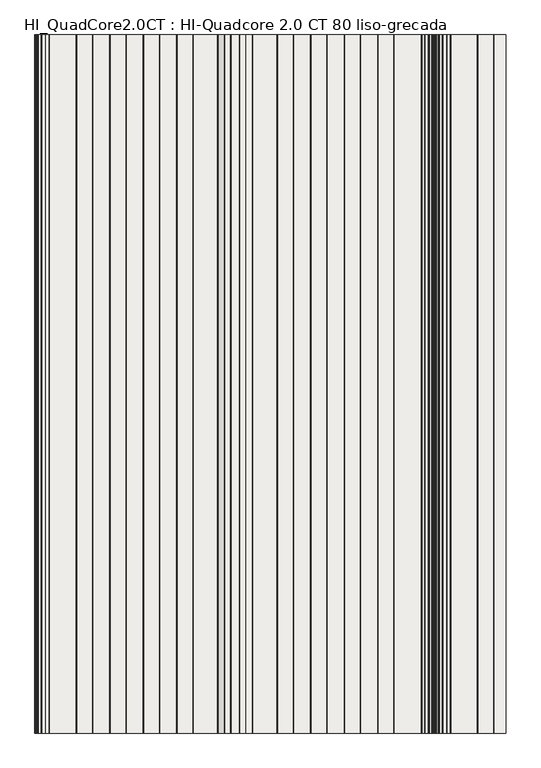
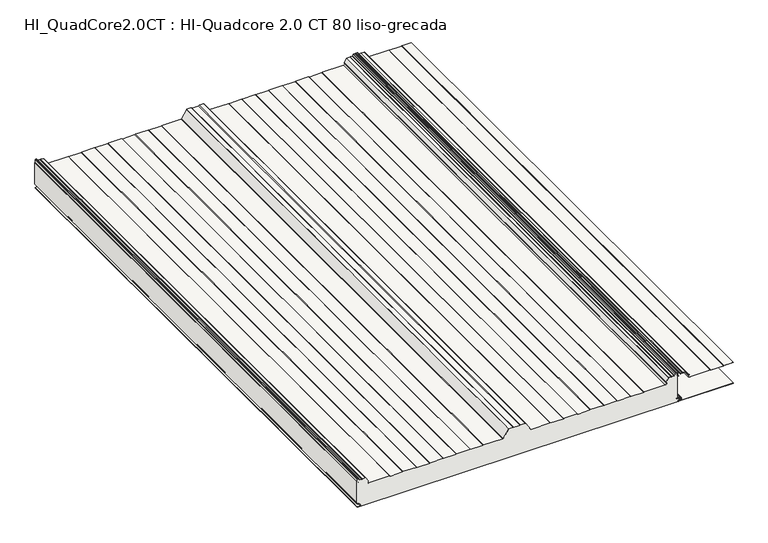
"""IFC4 building model written with IfcOpenShell, lengths in millimetres: slab geometry, HI_QuadCore2.0CT : HI-Quadcore 2.0 CT 80 liso-grecada."""

from ifc_helpers import new_model, si_unit, point, frame, frame_2d, origin, place, context, project, spatial, polyline, circle_curve, trimmed, segment, composite_curve, outline, extrude, source, transform, mapped, element, save
from ifc_brep_helpers import plane_surface, cylinder_surface, revolved_surface, advanced_brep


def hi_quadcore2_0ct_hi_quadcore_2_0_ct_80_liso_grecada_12a7aa08(model_context):
    return source(origin(), model_context, "Body", "SolidModel", [
        advanced_brep(
        [(1155.1475465, 0.0, 95.7425833), (1151.3824194, 0.0, 97.9163804), (1150.0, 0.0, 97.9163804), (1150.0, 0.0, 16.239302), (1157.510215, 0.0, 16.239302), (1157.510215, 0.0, 15.4391074), (1153.6125693, 0.0, 15.4391074), (1152.4319301, 0.0, 14.2584682), (1153.4276302, 0.0, 13.0866965), (1161.8278581, 0.0, 11.7547343), (1161.7995989, 0.0, 4.4809044), (1151.8467032, 0.0, 2.9844289), (1152.0100062, 0.0, 0.8), (2297.9590685, 0.0, 0.8), (2299.3391392, 0.0, 2.1800708), (2302.5664905, 0.0, 5.8294074), (2310.7843221, 0.0, 6.8264698), (2310.7843299, 0.0, 9.4135286), (2300.8450446, 0.0, 10.6192254), (2297.8324398, 0.0, 14.0237344), (2297.2282701, 0.0, 15.44), (2292.7624398, 0.0, 15.44), (2292.7624398, 0.0, 16.239302), (2300.0, 0.0, 16.239302), (2300.0, 0.0, 97.9163804), (2298.8824194, 0.0, 97.9163804), (2295.1172924, 0.0, 95.7425833), (2294.7172924, 0.0, 96.4354036), (2298.5824194, 0.0, 98.6669358), (2298.5824194, 0.0, 108.1), (2297.4824194, 0.0, 109.2), (2293.8888221, 0.0, 109.2), (2292.8725546, 0.0, 108.5209518), (2291.0157992, 0.0, 104.0383476), (2288.8631598, 0.0, 102.6), (2282.1371875, 0.0, 102.6), (2280.4324194, 0.0, 101.8110374), (2278.7276514, 0.0, 102.6), (2269.4004541, 0.0, 102.6), (2268.4939153, 0.0, 102.1230469), (2259.1558806, 0.0, 88.5361221), (2259.356723, 0.0, 87.0692788), (2260.3070878, 0.0, 86.2744554), (2257.4852773, 0.0, 79.2), (2181.3816122, 0.0, 79.2), (2179.6495614, 0.0, 78.2), (2134.6152775, 0.0, 78.2), (2132.8832267, 0.0, 79.2), (2085.3816122, 0.0, 79.2), (2083.6495614, 0.0, 78.2), (2038.6152775, 0.0, 78.2), (2036.8832267, 0.0, 79.2), (1989.3816122, 0.0, 79.2), (1987.6495614, 0.0, 78.2), (1942.6152775, 0.0, 78.2), (1940.8832267, 0.0, 79.2), (1893.3816122, 0.0, 79.2), (1891.6495614, 0.0, 78.2), (1846.6152775, 0.0, 78.2), (1844.8832267, 0.0, 79.2), (1775.9029123, 0.0, 79.2), (1773.9344839, 0.0, 80.2833287), (1755.9445057, 0.0, 108.6885573), (1755.0152048, 0.0, 109.2), (1738.8816122, 0.0, 109.2), (1736.283536, 0.0, 107.7), (1713.9813029, 0.0, 107.7), (1711.3832267, 0.0, 109.2), (1695.2496341, 0.0, 109.2), (1694.3203331, 0.0, 108.6885573), (1676.330355, 0.0, 80.2833287), (1674.3619266, 0.0, 79.2), (1605.3816122, 0.0, 79.2), (1603.6495614, 0.0, 78.2), (1558.6152775, 0.0, 78.2), (1556.8832267, 0.0, 79.2), (1509.3816122, 0.0, 79.2), (1507.6495614, 0.0, 78.2), (1462.6152775, 0.0, 78.2), (1460.8832267, 0.0, 79.2), (1413.3816122, 0.0, 79.2), (1411.6495614, 0.0, 78.2), (1366.6152775, 0.0, 78.2), (1364.8832267, 0.0, 79.2), (1317.3816122, 0.0, 79.2), (1315.6495614, 0.0, 78.2), (1270.6152775, 0.0, 78.2), (1268.8832267, 0.0, 79.2), (1192.7795617, 0.0, 79.2), (1189.9577511, 0.0, 86.2744555), (1190.9081159, 0.0, 87.0692788), (1191.1089583, 0.0, 88.5361221), (1181.7709236, 0.0, 102.1230469), (1180.8643848, 0.0, 102.6), (1171.5371875, 0.0, 102.6), (1169.8324194, 0.0, 101.8110374), (1168.1276514, 0.0, 102.6), (1161.4016791, 0.0, 102.6), (1159.2490397, 0.0, 104.0383476), (1157.3922843, 0.0, 108.5209518), (1156.3760168, 0.0, 109.2), (1152.7824194, 0.0, 109.2), (1151.6824194, 0.0, 108.1), (1151.6824194, 0.0, 98.6669358), (1155.5475465, 0.0, 96.4354036), (1155.1475465, 2000.0, 95.7425833), (1155.5475465, 2000.0, 96.4354036), (1151.6824194, 2000.0, 98.6669358), (1151.6824194, 2000.0, 108.1), (1152.7824194, 2000.0, 109.2), (1156.3760168, 2000.0, 109.2), (1157.3922843, 2000.0, 108.5209518), (1159.2490397, 2000.0, 104.0383476), (1161.4016791, 2000.0, 102.6), (1168.1276514, 2000.0, 102.6), (1169.8324194, 2000.0, 101.8110374), (1171.5371875, 2000.0, 102.6), (1180.8643848, 2000.0, 102.6), (1181.7709236, 2000.0, 102.1230469), (1191.1089583, 2000.0, 88.5361221), (1190.9081159, 2000.0, 87.0692788), (1189.9577511, 2000.0, 86.2744555), (1192.7795617, 2000.0, 79.2), (1268.8832267, 2000.0, 79.2), (1270.6152775, 2000.0, 78.2), (1315.6495614, 2000.0, 78.2), (1317.3816122, 2000.0, 79.2), (1364.8832267, 2000.0, 79.2), (1366.6152775, 2000.0, 78.2), (1411.6495614, 2000.0, 78.2), (1413.3816122, 2000.0, 79.2), (1460.8832267, 2000.0, 79.2), (1462.6152775, 2000.0, 78.2), (1507.6495614, 2000.0, 78.2), (1509.3816122, 2000.0, 79.2), (1556.8832267, 2000.0, 79.2), (1558.6152775, 2000.0, 78.2), (1603.6495614, 2000.0, 78.2), (1605.3816122, 2000.0, 79.2), (1674.3619266, 2000.0, 79.2), (1676.330355, 2000.0, 80.2833287), (1694.3203331, 2000.0, 108.6885573), (1695.2496341, 2000.0, 109.2), (1711.3832267, 2000.0, 109.2), (1713.9813029, 2000.0, 107.7), (1736.283536, 2000.0, 107.7), (1738.8816122, 2000.0, 109.2), (1755.0152048, 2000.0, 109.2), (1755.9445057, 2000.0, 108.6885573), (1773.9344839, 2000.0, 80.2833287), (1775.9029123, 2000.0, 79.2), (1844.8832267, 2000.0, 79.2), (1846.6152775, 2000.0, 78.2), (1891.6495614, 2000.0, 78.2), (1893.3816122, 2000.0, 79.2), (1940.8832267, 2000.0, 79.2), (1942.6152775, 2000.0, 78.2), (1987.6495614, 2000.0, 78.2), (1989.3816122, 2000.0, 79.2), (2036.8832267, 2000.0, 79.2), (2038.6152775, 2000.0, 78.2), (2083.6495614, 2000.0, 78.2), (2085.3816122, 2000.0, 79.2), (2132.8832267, 2000.0, 79.2), (2134.6152775, 2000.0, 78.2), (2179.6495614, 2000.0, 78.2), (2181.3816122, 2000.0, 79.2), (2257.4852773, 2000.0, 79.2), (2260.3070878, 2000.0, 86.2744554), (2259.356723, 2000.0, 87.0692788), (2259.1558806, 2000.0, 88.5361221), (2268.4939153, 2000.0, 102.1230469), (2269.4004541, 2000.0, 102.6), (2278.7276514, 2000.0, 102.6), (2280.4324194, 2000.0, 101.8110374), (2282.1371875, 2000.0, 102.6), (2288.8631598, 2000.0, 102.6), (2291.0157992, 2000.0, 104.0383476), (2292.8725546, 2000.0, 108.5209518), (2293.8888221, 2000.0, 109.2), (2297.4824194, 2000.0, 109.2), (2298.5824194, 2000.0, 108.1), (2298.5824194, 2000.0, 98.6669358), (2294.7172924, 2000.0, 96.4354036), (2295.1172924, 2000.0, 95.7425833), (2298.8824194, 2000.0, 97.9163804), (2300.0, 2000.0, 97.9163804), (2300.0, 2000.0, 16.239302), (2292.7624398, 2000.0, 16.239302), (2292.7624398, 2000.0, 15.44), (2297.2282701, 2000.0, 15.44), (2297.8324398, 2000.0, 14.0237344), (2300.8450446, 2000.0, 10.6192254), (2310.7843299, 2000.0, 9.4135286), (2310.7843221, 2000.0, 6.8264698), (2302.5664905, 2000.0, 5.8294074), (2299.3391392, 2000.0, 2.1800708), (2297.9590685, 2000.0, 0.8), (1152.0100062, 2000.0, 0.8), (1151.8467032, 2000.0, 2.9844289), (1161.7995989, 2000.0, 4.4809044), (1161.8278581, 2000.0, 11.7547343), (1153.4273037, 2000.0, 13.0846342), (1152.4319301, 2000.0, 14.2584682), (1153.6125693, 2000.0, 15.4391074), (1157.510215, 2000.0, 15.4391074), (1157.510215, 2000.0, 16.239302), (1150.0, 2000.0, 16.239302), (1150.0, 2000.0, 97.9163804), (1151.3824194, 2000.0, 97.9163804)],
        [
            (0, 1),
            (1, 2),
            (2, 3),
            (3, 4),
            (4, 5),
            (5, 6),
            (6, 7, circle_curve(frame((1153.6125693, 0.0, 14.2584682), z_axis=(0.0, -1.0, 0.0), x_axis=(1.0, 0.0, 0.0)), 1.1806391)),
            (7, 8, circle_curve(frame((1153.6121809, 0.0, 14.2524448), z_axis=(0.0, -1.0, 0.0), x_axis=(1.0, 0.0, 0.0)), 1.1802661)),
            (8, 9),
            (9, 10, circle_curve(frame((1161.2524398, 0.0, 8.12), z_axis=(0.0, 1.0, 0.0), x_axis=(1.0, 0.0, 0.0)), 3.68)),
            (10, 11),
            (11, 12, circle_curve(frame((1152.0100062, 0.0, 1.8983185), z_axis=(0.0, -1.0, 0.0), x_axis=(1.0, 0.0, 0.0)), 1.0983185)),
            (12, 13),
            (13, 14, circle_curve(frame((2297.9590685, 0.0, 2.1800708), z_axis=(0.0, -1.0, 0.0), x_axis=(1.0, 0.0, 0.0)), 1.3800708)),
            (14, 15, circle_curve(frame((2303.0160638, 0.0, 2.1800708), z_axis=(0.0, 1.0, 0.0), x_axis=(1.0, 0.0, 0.0)), 3.6769246)),
            (15, 16),
            (16, 17, circle_curve(frame((2310.5224398, 0.0, 8.12), z_axis=(0.0, -1.0, 0.0), x_axis=(1.0, 0.0, 0.0)), 1.3197737)),
            (17, 18),
            (18, 19, circle_curve(frame((2301.2624398, 0.0, 14.0237344), z_axis=(0.0, 1.0, 0.0), x_axis=(1.0, 0.0, 0.0)), 3.43)),
            (19, 20, circle_curve(frame((2295.8703839, 0.0, 14.0237344), z_axis=(0.0, -1.0, 0.0), x_axis=(1.0, 0.0, 0.0)), 1.9620559)),
            (20, 21),
            (21, 22),
            (22, 23),
            (23, 24),
            (24, 25),
            (25, 26),
            (26, 27),
            (27, 28),
            (28, 29),
            (29, 30, circle_curve(frame((2297.4824194, 0.0, 108.1), z_axis=(0.0, -1.0, 0.0), x_axis=(1.0, 0.0, 0.0)), 1.1)),
            (30, 31),
            (31, 32, circle_curve(frame((2293.8888221, 0.0, 108.1), z_axis=(0.0, -1.0, 0.0), x_axis=(1.0, 0.0, 0.0)), 1.1)),
            (32, 33),
            (33, 34, circle_curve(frame((2288.8631598, 0.0, 104.93), z_axis=(0.0, 1.0, 0.0), x_axis=(1.0, 0.0, 0.0)), 2.33)),
            (34, 35),
            (35, 36),
            (36, 37),
            (37, 38),
            (38, 39, circle_curve(frame((2269.4004541, 0.0, 101.5), z_axis=(0.0, -1.0, 0.0), x_axis=(1.0, 0.0, 0.0)), 1.1)),
            (39, 40),
            (40, 41, circle_curve(frame((2260.0624194, 0.0, 87.9130753), z_axis=(0.0, -1.0, 0.0), x_axis=(1.0, 0.0, 0.0)), 1.1)),
            (41, 42),
            (42, 43, circle_curve(frame((2257.4852773, 0.0, 83.3), z_axis=(0.0, 1.0, 0.0), x_axis=(1.0, 0.0, 0.0)), 4.1)),
            (43, 44),
            (44, 45),
            (45, 46),
            (46, 47),
            (47, 48),
            (48, 49),
            (49, 50),
            (50, 51),
            (51, 52),
            (52, 53),
            (53, 54),
            (54, 55),
            (55, 56),
            (56, 57),
            (57, 58),
            (58, 59),
            (59, 60),
            (60, 61, circle_curve(frame((1775.9029123, 0.0, 81.53), z_axis=(0.0, 1.0, 0.0), x_axis=(1.0, 0.0, 0.0)), 2.33)),
            (61, 62),
            (62, 63, circle_curve(frame((1755.0152048, 0.0, 108.1), z_axis=(0.0, -1.0, 0.0), x_axis=(1.0, 0.0, 0.0)), 1.1)),
            (63, 64),
            (64, 65),
            (65, 66),
            (66, 67),
            (67, 68),
            (68, 69, circle_curve(frame((1695.2496341, 0.0, 108.1), z_axis=(0.0, -1.0, 0.0), x_axis=(1.0, 0.0, 0.0)), 1.1)),
            (69, 70),
            (70, 71, circle_curve(frame((1674.3619266, 0.0, 81.53), z_axis=(0.0, 1.0, 0.0), x_axis=(1.0, 0.0, 0.0)), 2.33)),
            (71, 72),
            (72, 73),
            (73, 74),
            (74, 75),
            (75, 76),
            (76, 77),
            (77, 78),
            (78, 79),
            (79, 80),
            (80, 81),
            (81, 82),
            (82, 83),
            (83, 84),
            (84, 85),
            (85, 86),
            (86, 87),
            (87, 88),
            (88, 89, circle_curve(frame((1192.7795617, 0.0, 83.3), z_axis=(0.0, 1.0, 0.0), x_axis=(1.0, 0.0, 0.0)), 4.1)),
            (89, 90),
            (90, 91, circle_curve(frame((1190.2024195, 0.0, 87.9130752), z_axis=(0.0, -1.0, 0.0), x_axis=(1.0, 0.0, 0.0)), 1.1)),
            (91, 92),
            (92, 93, circle_curve(frame((1180.8643848, 0.0, 101.5), z_axis=(0.0, -1.0, 0.0), x_axis=(1.0, 0.0, 0.0)), 1.1)),
            (93, 94),
            (94, 95),
            (95, 96),
            (96, 97),
            (97, 98, circle_curve(frame((1161.4016791, 0.0, 104.93), z_axis=(0.0, 1.0, 0.0), x_axis=(1.0, 0.0, 0.0)), 2.33)),
            (98, 99),
            (99, 100, circle_curve(frame((1156.3760168, 0.0, 108.1), z_axis=(0.0, -1.0, 0.0), x_axis=(1.0, 0.0, 0.0)), 1.1)),
            (100, 101),
            (101, 102, circle_curve(frame((1152.7824194, 0.0, 108.1), z_axis=(0.0, -1.0, 0.0), x_axis=(1.0, 0.0, 0.0)), 1.1)),
            (102, 103),
            (103, 104),
            (104, 0),
            (105, 106),
            (106, 107),
            (107, 108),
            (108, 109, circle_curve(frame((1152.7824194, 2000.0, 108.1), z_axis=(0.0, 1.0, 0.0), x_axis=(1.0, 0.0, 0.0)), 1.1)),
            (109, 110),
            (110, 111, circle_curve(frame((1156.3760168, 2000.0, 108.1), z_axis=(0.0, 1.0, 0.0), x_axis=(1.0, 0.0, 0.0)), 1.1)),
            (111, 112),
            (112, 113, circle_curve(frame((1161.4016791, 2000.0, 104.93), z_axis=(0.0, -1.0, 0.0), x_axis=(1.0, 0.0, 0.0)), 2.33)),
            (113, 114),
            (114, 115),
            (115, 116),
            (116, 117),
            (117, 118, circle_curve(frame((1180.8643848, 2000.0, 101.5), z_axis=(0.0, 1.0, 0.0), x_axis=(1.0, 0.0, 0.0)), 1.1)),
            (118, 119),
            (119, 120, circle_curve(frame((1190.2024195, 2000.0, 87.9130752), z_axis=(0.0, 1.0, 0.0), x_axis=(1.0, 0.0, 0.0)), 1.1)),
            (120, 121),
            (121, 122, circle_curve(frame((1192.7795617, 2000.0, 83.3), z_axis=(0.0, -1.0, 0.0), x_axis=(1.0, 0.0, 0.0)), 4.1)),
            (122, 123),
            (123, 124),
            (124, 125),
            (125, 126),
            (126, 127),
            (127, 128),
            (128, 129),
            (129, 130),
            (130, 131),
            (131, 132),
            (132, 133),
            (133, 134),
            (134, 135),
            (135, 136),
            (136, 137),
            (137, 138),
            (138, 139),
            (139, 140, circle_curve(frame((1674.3619266, 2000.0, 81.53), z_axis=(0.0, -1.0, 0.0), x_axis=(1.0, 0.0, 0.0)), 2.33)),
            (140, 141),
            (141, 142, circle_curve(frame((1695.2496341, 2000.0, 108.1), z_axis=(0.0, 1.0, 0.0), x_axis=(1.0, 0.0, 0.0)), 1.1)),
            (142, 143),
            (143, 144),
            (144, 145),
            (145, 146),
            (146, 147),
            (147, 148, circle_curve(frame((1755.0152048, 2000.0, 108.1), z_axis=(0.0, 1.0, 0.0), x_axis=(1.0, 0.0, 0.0)), 1.1)),
            (148, 149),
            (149, 150, circle_curve(frame((1775.9029123, 2000.0, 81.53), z_axis=(0.0, -1.0, 0.0), x_axis=(1.0, 0.0, 0.0)), 2.33)),
            (150, 151),
            (151, 152),
            (152, 153),
            (153, 154),
            (154, 155),
            (155, 156),
            (156, 157),
            (157, 158),
            (158, 159),
            (159, 160),
            (160, 161),
            (161, 162),
            (162, 163),
            (163, 164),
            (164, 165),
            (165, 166),
            (166, 167),
            (167, 168, circle_curve(frame((2257.4852773, 2000.0, 83.3), z_axis=(0.0, -1.0, 0.0), x_axis=(1.0, 0.0, 0.0)), 4.1)),
            (168, 169),
            (169, 170, circle_curve(frame((2260.0624194, 2000.0, 87.9130753), z_axis=(0.0, 1.0, 0.0), x_axis=(1.0, 0.0, 0.0)), 1.1)),
            (170, 171),
            (171, 172, circle_curve(frame((2269.4004541, 2000.0, 101.5), z_axis=(0.0, 1.0, 0.0), x_axis=(1.0, 0.0, 0.0)), 1.1)),
            (172, 173),
            (173, 174),
            (174, 175),
            (175, 176),
            (176, 177, circle_curve(frame((2288.8631598, 2000.0, 104.93), z_axis=(0.0, -1.0, 0.0), x_axis=(1.0, 0.0, 0.0)), 2.33)),
            (177, 178),
            (178, 179, circle_curve(frame((2293.8888221, 2000.0, 108.1), z_axis=(0.0, 1.0, 0.0), x_axis=(1.0, 0.0, 0.0)), 1.1)),
            (179, 180),
            (180, 181, circle_curve(frame((2297.4824194, 2000.0, 108.1), z_axis=(0.0, 1.0, 0.0), x_axis=(1.0, 0.0, 0.0)), 1.1)),
            (181, 182),
            (182, 183),
            (183, 184),
            (184, 185),
            (185, 186),
            (186, 187),
            (187, 188),
            (188, 189),
            (189, 190),
            (190, 191, circle_curve(frame((2295.8703839, 2000.0, 14.0237344), z_axis=(0.0, 1.0, 0.0), x_axis=(1.0, 0.0, 0.0)), 1.9620559)),
            (191, 192, circle_curve(frame((2301.2624398, 2000.0, 14.0237344), z_axis=(0.0, -1.0, 0.0), x_axis=(1.0, 0.0, 0.0)), 3.43)),
            (192, 193),
            (193, 194, circle_curve(frame((2310.5224398, 2000.0, 8.12), z_axis=(0.0, 1.0, 0.0), x_axis=(1.0, 0.0, 0.0)), 1.3197737)),
            (194, 195),
            (195, 196, circle_curve(frame((2303.0160638, 2000.0, 2.1800708), z_axis=(0.0, -1.0, 0.0), x_axis=(1.0, 0.0, 0.0)), 3.6769246)),
            (196, 197, circle_curve(frame((2297.9590685, 2000.0, 2.1800708), z_axis=(0.0, 1.0, 0.0), x_axis=(1.0, 0.0, 0.0)), 1.3800708)),
            (197, 198),
            (198, 199, circle_curve(frame((1152.0100062, 2000.0, 1.8983185), z_axis=(0.0, 1.0, 0.0), x_axis=(1.0, 0.0, 0.0)), 1.0983185)),
            (199, 200),
            (200, 201, circle_curve(frame((1161.2524398, 2000.0, 8.12), z_axis=(0.0, -1.0, 0.0), x_axis=(1.0, 0.0, 0.0)), 3.68)),
            (201, 202),
            (202, 203, circle_curve(frame((1153.6121809, 2000.0, 14.2524448), z_axis=(0.0, 1.0, 0.0), x_axis=(1.0, 0.0, 0.0)), 1.1802661)),
            (203, 204, circle_curve(frame((1153.6125693, 2000.0, 14.2584682), z_axis=(0.0, 1.0, 0.0), x_axis=(1.0, 0.0, 0.0)), 1.1806391)),
            (204, 205),
            (205, 206),
            (206, 207),
            (207, 208),
            (208, 209),
            (209, 105),
            (0, 105),
            (209, 1),
            (208, 2),
            (207, 3),
            (186, 24),
            (23, 187),
            (185, 25),
            (184, 26),
            (183, 27),
            (182, 28),
            (181, 29),
            (180, 30),
            (179, 31),
            (178, 32),
            (177, 33),
            (176, 34),
            (175, 35),
            (174, 36),
            (173, 37),
            (172, 38),
            (171, 39),
            (170, 40),
            (169, 41),
            (168, 42),
            (167, 43),
            (166, 44),
            (165, 45),
            (164, 46),
            (163, 47),
            (162, 48),
            (161, 49),
            (160, 50),
            (159, 51),
            (158, 52),
            (157, 53),
            (156, 54),
            (155, 55),
            (154, 56),
            (153, 57),
            (152, 58),
            (151, 59),
            (150, 60),
            (149, 61),
            (148, 62),
            (147, 63),
            (146, 64),
            (145, 65),
            (144, 66),
            (143, 67),
            (142, 68),
            (141, 69),
            (140, 70),
            (139, 71),
            (138, 72),
            (137, 73),
            (136, 74),
            (135, 75),
            (134, 76),
            (133, 77),
            (132, 78),
            (131, 79),
            (130, 80),
            (129, 81),
            (128, 82),
            (127, 83),
            (126, 84),
            (125, 85),
            (124, 86),
            (123, 87),
            (122, 88),
            (121, 89),
            (120, 90),
            (119, 91),
            (118, 92),
            (117, 93),
            (116, 94),
            (115, 95),
            (114, 96),
            (113, 97),
            (112, 98),
            (111, 99),
            (110, 100),
            (109, 101),
            (108, 102),
            (107, 103),
            (106, 104),
            (22, 188),
            (206, 4),
            (205, 5),
            (204, 6),
            (203, 7),
            (202, 8),
            (201, 9),
            (200, 10),
            (199, 11),
            (198, 12),
            (197, 13),
            (196, 14),
            (195, 15),
            (194, 16),
            (193, 17),
            (192, 18),
            (191, 19),
            (190, 20),
            (189, 21),
        ],
        [
            plane_surface(frame((1151.3824194, 0.0, 97.9163804), z_axis=(0.0, -1.0, 0.0), x_axis=(-0.866025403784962, 0.0, 0.4999999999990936))),
            plane_surface(frame((1151.3824194, 2000.0, 97.9163804), z_axis=(0.0, 1.0, 0.0), x_axis=(0.866025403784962, 0.0, -0.4999999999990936))),
            plane_surface(frame((1155.1475465, 0.0, 95.7425833), z_axis=(0.4999999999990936, 0.0, 0.866025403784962), x_axis=(0.0, 1.0, 0.0))),
            plane_surface(frame((1151.3824194, 0.0, 97.9163804), z_axis=(0.0, 0.0, 1.0), x_axis=(0.0, 1.0, 0.0))),
            plane_surface(frame((1150.0, 0.0, 97.9163804), z_axis=(-1.0, 0.0, 0.0), x_axis=(0.0, 1.0, 0.0))),
            plane_surface(frame((2300.0, 0.0, 70.0), z_axis=(1.0, 0.0, 0.0), x_axis=(0.0, 1.0, 0.0))),
            plane_surface(frame((2300.0, 0.0, 97.9163804), z_axis=(0.0, 0.0, 1.0), x_axis=(0.0, 1.0, 0.0))),
            plane_surface(frame((2298.8824194, 0.0, 97.9163804), z_axis=(-0.4999999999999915, 0.0, 0.8660254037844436), x_axis=(0.0, 1.0, 0.0))),
            plane_surface(frame((2295.1172924, 0.0, 95.7425833), z_axis=(0.8660254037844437, 0.0, 0.49999999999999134), x_axis=(0.0, 1.0, 0.0))),
            plane_surface(frame((2294.7172924, 0.0, 96.4354036), z_axis=(0.4999999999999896, 0.0, -0.8660254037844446), x_axis=(0.0, 1.0, 0.0))),
            plane_surface(frame((2298.5824194, 0.0, 98.6669358), z_axis=(1.0, 0.0, 0.0), x_axis=(0.0, 1.0, 0.0))),
            cylinder_surface(frame((2297.4824194, 2000.0, 108.1), z_axis=(0.0, -1.0, 0.0), x_axis=(1.0, 0.0, 0.0)), 1.1),
            plane_surface(frame((2297.4824194, 0.0, 109.2), z_axis=(0.0, 0.0, 1.0), x_axis=(0.0, 1.0, 0.0))),
            cylinder_surface(frame((2293.8888221, 2000.0, 108.1), z_axis=(0.0, -1.0, 0.0), x_axis=(1.0, 0.0, 0.0)), 1.1),
            plane_surface(frame((2292.8725546, 0.0, 108.5209518), z_axis=(-0.9238795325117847, 0.0, 0.38268343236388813), x_axis=(0.0, 1.0, 0.0))),
            revolved_surface(polyline([(2291.1931598, 2000.0, 104.93), (2291.1931598, 0.0, 104.93)]), (2288.8631598, 2000.0, 104.93), (0.0, 1.0, 0.0)),
            plane_surface(frame((2288.8631598, 0.0, 102.6), z_axis=(0.0, 0.0, 1.0), x_axis=(0.0, 1.0, 0.0))),
            plane_surface(frame((2282.1371875, 0.0, 102.6), z_axis=(-0.4199999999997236, 0.0, 0.9075241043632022), x_axis=(0.0, 1.0, 0.0))),
            plane_surface(frame((2280.4324194, 0.0, 101.8110374), z_axis=(0.42000000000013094, 0.0, 0.9075241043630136), x_axis=(0.0, 1.0, 0.0))),
            plane_surface(frame((2278.7276514, 0.0, 102.6), z_axis=(0.0, 0.0, 1.0), x_axis=(0.0, 1.0, 0.0))),
            cylinder_surface(frame((2269.4004541, 2000.0, 101.5), z_axis=(0.0, -1.0, 0.0), x_axis=(1.0, 0.0, 0.0)), 1.1),
            plane_surface(frame((2268.4939153, 0.0, 102.1230469), z_axis=(-0.824126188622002, 0.0, 0.5664062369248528), x_axis=(0.0, 1.0, 0.0))),
            cylinder_surface(frame((2260.0624194, 2000.0, 87.9130753), z_axis=(0.0, -1.0, 0.0), x_axis=(1.0, 0.0, 0.0)), 1.1),
            plane_surface(frame((2259.356723, 0.0, 87.0692788), z_axis=(-0.641542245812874, 0.0, -0.7670877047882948), x_axis=(0.0, 1.0, 0.0))),
            revolved_surface(polyline([(2261.5852772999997, 2000.0, 83.3), (2261.5852772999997, 0.0, 83.3)]), (2257.4852773, 2000.0, 83.3), (0.0, 1.0, 0.0)),
            plane_surface(frame((2257.4852773, 0.0, 79.2), z_axis=(0.0, 0.0, 1.0), x_axis=(0.0, 1.0, 0.0))),
            plane_surface(frame((2181.3816122, 0.0, 79.2), z_axis=(-0.4999999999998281, 0.0, 0.866025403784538), x_axis=(0.0, 1.0, 0.0))),
            plane_surface(frame((2179.6495614, 0.0, 78.2), z_axis=(0.0, 0.0, 1.0), x_axis=(0.0, 1.0, 0.0))),
            plane_surface(frame((2134.6152775, 0.0, 78.2), z_axis=(0.4999999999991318, 0.0, 0.86602540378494), x_axis=(0.0, 1.0, 0.0))),
            plane_surface(frame((2132.8832267, 0.0, 79.2), z_axis=(0.0, 0.0, 1.0), x_axis=(0.0, 1.0, 0.0))),
            plane_surface(frame((2085.3816122, 0.0, 79.2), z_axis=(-0.49999999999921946, 0.0, 0.8660254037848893), x_axis=(0.0, 1.0, 0.0))),
            plane_surface(frame((2083.6495614, 0.0, 78.2), z_axis=(0.0, 0.0, 1.0), x_axis=(0.0, 1.0, 0.0))),
            plane_surface(frame((2038.6152775, 0.0, 78.2), z_axis=(0.49999999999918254, 0.0, 0.8660254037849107), x_axis=(0.0, 1.0, 0.0))),
            plane_surface(frame((2036.8832267, 0.0, 79.2), z_axis=(0.0, 0.0, 1.0), x_axis=(0.0, 1.0, 0.0))),
            plane_surface(frame((1989.3816122, 0.0, 79.2), z_axis=(-0.4999999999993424, 0.0, 0.8660254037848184), x_axis=(0.0, 1.0, 0.0))),
            plane_surface(frame((1987.6495614, 0.0, 78.2), z_axis=(0.0, 0.0, 1.0), x_axis=(0.0, 1.0, 0.0))),
            plane_surface(frame((1942.6152775, 0.0, 78.2), z_axis=(0.4999999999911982, 0.0, 0.8660254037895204), x_axis=(0.0, 1.0, 0.0))),
            plane_surface(frame((1940.8832267, 0.0, 79.2), z_axis=(0.0, 0.0, 1.0), x_axis=(0.0, 1.0, 0.0))),
            plane_surface(frame((1893.3816122, 0.0, 79.2), z_axis=(-0.5000000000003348, 0.0, 0.8660254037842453), x_axis=(0.0, 1.0, 0.0))),
            plane_surface(frame((1891.6495614, 0.0, 78.2), z_axis=(0.0, 0.0, 1.0), x_axis=(0.0, 1.0, 0.0))),
            plane_surface(frame((1846.6152775, 0.0, 78.2), z_axis=(0.5000000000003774, 0.0, 0.8660254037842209), x_axis=(0.0, 1.0, 0.0))),
            plane_surface(frame((1844.8832267, 0.0, 79.2), z_axis=(0.0, 0.0, 1.0), x_axis=(0.0, 1.0, 0.0))),
            revolved_surface(polyline([(1778.2329123, 2000.0, 81.53), (1778.2329123, 0.0, 81.53)]), (1775.9029123, 2000.0, 81.53), (0.0, 1.0, 0.0)),
            plane_surface(frame((1773.9344839, 0.0, 80.2833287), z_axis=(0.8448190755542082, 0.0, 0.5350520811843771), x_axis=(0.0, 1.0, 0.0))),
            cylinder_surface(frame((1755.0152048, 2000.0, 108.1), z_axis=(0.0, -1.0, 0.0), x_axis=(1.0, 0.0, 0.0)), 1.1),
            plane_surface(frame((1755.0152048, 0.0, 109.2), z_axis=(0.0, 0.0, 1.0), x_axis=(0.0, 1.0, 0.0))),
            plane_surface(frame((1738.8816122, 0.0, 109.2), z_axis=(-0.4999999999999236, 0.0, 0.8660254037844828), x_axis=(0.0, 1.0, 0.0))),
            plane_surface(frame((1736.283536, 0.0, 107.7), z_axis=(0.0, 0.0, 1.0), x_axis=(0.0, 1.0, 0.0))),
            plane_surface(frame((1713.9813029, 0.0, 107.7), z_axis=(0.5000000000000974, 0.0, 0.8660254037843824), x_axis=(0.0, 1.0, 0.0))),
            plane_surface(frame((1711.3832267, 0.0, 109.2), z_axis=(0.0, 0.0, 1.0), x_axis=(0.0, 1.0, 0.0))),
            cylinder_surface(frame((1695.2496341, 2000.0, 108.1), z_axis=(0.0, -1.0, 0.0), x_axis=(1.0, 0.0, 0.0)), 1.1),
            plane_surface(frame((1694.3203331, 0.0, 108.6885573), z_axis=(-0.8448190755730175, 0.0, 0.5350520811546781), x_axis=(0.0, 1.0, 0.0))),
            revolved_surface(polyline([(1676.6919266, 2000.0, 81.53), (1676.6919266, 0.0, 81.53)]), (1674.3619266, 2000.0, 81.53), (0.0, 1.0, 0.0)),
            plane_surface(frame((1674.3619266, 0.0, 79.2), z_axis=(0.0, 0.0, 1.0), x_axis=(0.0, 1.0, 0.0))),
            plane_surface(frame((1605.3816122, 0.0, 79.2), z_axis=(-0.5000000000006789, 0.0, 0.8660254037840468), x_axis=(0.0, 1.0, 0.0))),
            plane_surface(frame((1603.6495614, 0.0, 78.2), z_axis=(0.0, 0.0, 1.0), x_axis=(0.0, 1.0, 0.0))),
            plane_surface(frame((1558.6152775, 0.0, 78.2), z_axis=(0.49999999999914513, 0.0, 0.8660254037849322), x_axis=(0.0, 1.0, 0.0))),
            plane_surface(frame((1556.8832267, 0.0, 79.2), z_axis=(0.0, 0.0, 1.0), x_axis=(0.0, 1.0, 0.0))),
            plane_surface(frame((1509.3816122, 0.0, 79.2), z_axis=(-0.500000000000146, 0.0, 0.8660254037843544), x_axis=(0.0, 1.0, 0.0))),
            plane_surface(frame((1507.6495614, 0.0, 78.2), z_axis=(0.0, 0.0, 1.0), x_axis=(0.0, 1.0, 0.0))),
            plane_surface(frame((1462.6152775, 0.0, 78.2), z_axis=(0.49999999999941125, 0.0, 0.8660254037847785), x_axis=(0.0, 1.0, 0.0))),
            plane_surface(frame((1460.8832267, 0.0, 79.2), z_axis=(0.0, 0.0, 1.0), x_axis=(0.0, 1.0, 0.0))),
            plane_surface(frame((1413.3816122, 0.0, 79.2), z_axis=(-0.4999999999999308, 0.0, 0.8660254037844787), x_axis=(0.0, 1.0, 0.0))),
            plane_surface(frame((1411.6495614, 0.0, 78.2), z_axis=(0.0, 0.0, 1.0), x_axis=(0.0, 1.0, 0.0))),
            plane_surface(frame((1366.6152775, 0.0, 78.2), z_axis=(0.49999999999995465, 0.0, 0.8660254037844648), x_axis=(0.0, 1.0, 0.0))),
            plane_surface(frame((1364.8832267, 0.0, 79.2), z_axis=(0.0, 0.0, 1.0), x_axis=(0.0, 1.0, 0.0))),
            plane_surface(frame((1317.3816122, 0.0, 79.2), z_axis=(-0.5000000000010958, 0.0, 0.866025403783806), x_axis=(0.0, 1.0, 0.0))),
            plane_surface(frame((1315.6495614, 0.0, 78.2), z_axis=(0.0, 0.0, 1.0), x_axis=(0.0, 1.0, 0.0))),
            plane_surface(frame((1270.6152775, 0.0, 78.2), z_axis=(0.4999999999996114, 0.0, 0.8660254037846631), x_axis=(0.0, 1.0, 0.0))),
            plane_surface(frame((1268.8832267, 0.0, 79.2), z_axis=(0.0, 0.0, 1.0), x_axis=(0.0, 1.0, 0.0))),
            revolved_surface(polyline([(1196.8795616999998, 2000.0, 83.3), (1196.8795616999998, 0.0, 83.3)]), (1192.7795617, 2000.0, 83.3), (0.0, 1.0, 0.0)),
            plane_surface(frame((1189.9577511, 0.0, 86.2744555), z_axis=(0.6415422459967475, 0.0, -0.7670877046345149), x_axis=(0.0, 1.0, 0.0))),
            cylinder_surface(frame((1190.2024195, 2000.0, 87.9130752), z_axis=(0.0, -1.0, 0.0), x_axis=(1.0, 0.0, 0.0)), 1.1),
            plane_surface(frame((1191.1089583, 0.0, 88.5361221), z_axis=(0.8241261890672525, 0.0, 0.5664062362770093), x_axis=(0.0, 1.0, 0.0))),
            cylinder_surface(frame((1180.8643848, 2000.0, 101.5), z_axis=(0.0, -1.0, 0.0), x_axis=(1.0, 0.0, 0.0)), 1.1),
            plane_surface(frame((1180.8643848, 0.0, 102.6), z_axis=(0.0, 0.0, 1.0), x_axis=(0.0, 1.0, 0.0))),
            plane_surface(frame((1171.5371875, 0.0, 102.6), z_axis=(-0.41999999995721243, 0.0, 0.9075241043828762), x_axis=(0.0, 1.0, 0.0))),
            plane_surface(frame((1169.8324194, 0.0, 101.8110374), z_axis=(0.4200000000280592, 0.0, 0.9075241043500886), x_axis=(0.0, 1.0, 0.0))),
            plane_surface(frame((1168.1276514, 0.0, 102.6), z_axis=(0.0, 0.0, 1.0), x_axis=(0.0, 1.0, 0.0))),
            revolved_surface(polyline([(1163.7316790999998, 2000.0, 104.93), (1163.7316790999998, 0.0, 104.93)]), (1161.4016791, 2000.0, 104.93), (0.0, 1.0, 0.0)),
            plane_surface(frame((1159.2490397, 0.0, 104.0383476), z_axis=(0.9238795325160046, 0.0, 0.3826834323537), x_axis=(0.0, 1.0, 0.0))),
            cylinder_surface(frame((1156.3760168, 2000.0, 108.1), z_axis=(0.0, -1.0, 0.0), x_axis=(1.0, 0.0, 0.0)), 1.1),
            plane_surface(frame((1156.3760168, 0.0, 109.2), z_axis=(0.0, 0.0, 1.0), x_axis=(0.0, 1.0, 0.0))),
            cylinder_surface(frame((1152.7824194, 2000.0, 108.1), z_axis=(0.0, -1.0, 0.0), x_axis=(1.0, 0.0, 0.0)), 1.1),
            plane_surface(frame((1151.6824194, 0.0, 108.1), z_axis=(-1.0, 0.0, 0.0), x_axis=(0.0, 1.0, 0.0))),
            plane_surface(frame((1151.6824194, 0.0, 98.6669358), z_axis=(-0.49999999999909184, 0.0, -0.866025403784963), x_axis=(0.0, 1.0, 0.0))),
            plane_surface(frame((1155.5475465, 0.0, 96.4354036), z_axis=(-0.866025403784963, 0.0, 0.4999999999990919), x_axis=(0.0, 1.0, 0.0))),
            plane_surface(frame((1150.0, 0.0, 16.239302), z_axis=(0.0, 0.0, -1.0), x_axis=(0.0, 1.0, 0.0))),
            plane_surface(frame((1157.510215, 0.0, 16.239302), z_axis=(-1.0, 0.0, 0.0), x_axis=(0.0, 1.0, 0.0))),
            plane_surface(frame((1157.510215, 0.0, 15.4391074), z_axis=(0.0, 0.0, 1.0), x_axis=(0.0, 1.0, 0.0))),
            cylinder_surface(frame((1153.6125693, 2000.0, 14.2584682), z_axis=(0.0, -1.0, 0.0), x_axis=(1.0, 0.0, 0.0)), 1.1806391),
            cylinder_surface(frame((1153.6121809, 2000.0, 14.2524448), z_axis=(0.0, -1.0, 0.0), x_axis=(1.0, 0.0, 0.0)), 1.1802661),
            plane_surface(frame((1153.4273037, 0.0, 13.0846342), z_axis=(-0.1563636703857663, 0.0, -0.9876995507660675), x_axis=(0.0, 1.0, 0.0))),
            revolved_surface(polyline([(1164.9324398, 2000.0, 8.12), (1164.9324398, 0.0, 8.12)]), (1161.2524398, 2000.0, 8.12), (0.0, 1.0, 0.0)),
            plane_surface(frame((1161.7995989, 0.0, 4.4809044), z_axis=(-0.14868453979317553, 0.0, 0.9888846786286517), x_axis=(0.0, 1.0, 0.0))),
            cylinder_surface(frame((1152.0100062, 2000.0, 1.8983185), z_axis=(0.0, -1.0, 0.0), x_axis=(1.0, 0.0, 0.0)), 1.0983185),
            plane_surface(frame((1152.0100062, 0.0, 0.8), z_axis=(0.0, 0.0, -1.0), x_axis=(0.0, 1.0, 0.0))),
            cylinder_surface(frame((2297.9590685, 2000.0, 2.1800708), z_axis=(0.0, -1.0, 0.0), x_axis=(1.0, 0.0, 0.0)), 1.3800708),
            revolved_surface(polyline([(2306.6929884, 2000.0, 2.1800708), (2306.6929884, 0.0, 2.1800708)]), (2303.0160638, 2000.0, 2.1800708), (0.0, 1.0, 0.0)),
            plane_surface(frame((2302.5664905, 0.0, 5.8294074), z_axis=(0.12044584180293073, 0.0, -0.9927198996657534), x_axis=(0.0, 1.0, 0.0))),
            cylinder_surface(frame((2310.5224398, 2000.0, 8.12), z_axis=(0.0, -1.0, 0.0), x_axis=(1.0, 0.0, 0.0)), 1.3197737),
            plane_surface(frame((2310.7843299, 0.0, 9.4135286), z_axis=(0.12042339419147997, 0.0, 0.9927226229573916), x_axis=(0.0, 1.0, 0.0))),
            revolved_surface(polyline([(2304.6924397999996, 2000.0, 14.0237344), (2304.6924397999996, 0.0, 14.0237344)]), (2301.2624398, 2000.0, 14.0237344), (0.0, 1.0, 0.0)),
            cylinder_surface(frame((2295.8703839, 2000.0, 14.0237344), z_axis=(0.0, -1.0, 0.0), x_axis=(1.0, 0.0, 0.0)), 1.9620559),
            plane_surface(frame((2297.2282701, 0.0, 15.44), z_axis=(0.0, 0.0, 1.0), x_axis=(0.0, 1.0, 0.0))),
            plane_surface(frame((2292.7624398, 0.0, 15.44), z_axis=(1.0, 0.0, 0.0), x_axis=(0.0, 1.0, 0.0))),
        ],
        [
            (0, [[1, 2, 3, 4, 5, 6, 7, 8, 9, 10, 11, 12, 13, 14, 15, 16, 17, 18, 19, 20, 21, 22, 23, 24, 25, 26, 27, 28, 29, 30, 31, 32, 33, 34, 35, 36, 37, 38, 39, 40, 41, 42, 43, 44, 45, 46, 47, 48, 49, 50, 51, 52, 53, 54, 55, 56, 57, 58, 59, 60, 61, 62, 63, 64, 65, 66, 67, 68, 69, 70, 71, 72, 73, 74, 75, 76, 77, 78, 79, 80, 81, 82, 83, 84, 85, 86, 87, 88, 89, 90, 91, 92, 93, 94, 95, 96, 97, 98, 99, 100, 101, 102, 103, 104, 105]]),
            (1, [[106, 107, 108, 109, 110, 111, 112, 113, 114, 115, 116, 117, 118, 119, 120, 121, 122, 123, 124, 125, 126, 127, 128, 129, 130, 131, 132, 133, 134, 135, 136, 137, 138, 139, 140, 141, 142, 143, 144, 145, 146, 147, 148, 149, 150, 151, 152, 153, 154, 155, 156, 157, 158, 159, 160, 161, 162, 163, 164, 165, 166, 167, 168, 169, 170, 171, 172, 173, 174, 175, 176, 177, 178, 179, 180, 181, 182, 183, 184, 185, 186, 187, 188, 189, 190, 191, 192, 193, 194, 195, 196, 197, 198, 199, 200, 201, 202, 203, 204, 205, 206, 207, 208, 209, 210]]),
            (2, [[-1, 211, -210, 212]]),
            (3, [[-2, -212, -209, 213]]),
            (4, [[-213, -208, 214, -3]]),
            (5, [[215, -24, 216, -187]]),
            (6, [[-25, -215, -186, 217]]),
            (7, [[-26, -217, -185, 218]]),
            (8, [[-27, -218, -184, 219]]),
            (9, [[-28, -219, -183, 220]]),
            (10, [[-29, -220, -182, 221]]),
            (11, [[-30, -221, -181, 222]]),
            (12, [[-31, -222, -180, 223]]),
            (13, [[-32, -223, -179, 224]]),
            (14, [[-33, -224, -178, 225]]),
            (15, [[-34, -225, -177, 226]]),
            (16, [[-35, -226, -176, 227]]),
            (17, [[-36, -227, -175, 228]]),
            (18, [[-37, -228, -174, 229]]),
            (19, [[-38, -229, -173, 230]]),
            (20, [[-39, -230, -172, 231]]),
            (21, [[-40, -231, -171, 232]]),
            (22, [[-41, -232, -170, 233]]),
            (23, [[-42, -233, -169, 234]]),
            (24, [[-43, -234, -168, 235]]),
            (25, [[-44, -235, -167, 236]]),
            (26, [[-45, -236, -166, 237]]),
            (27, [[-46, -237, -165, 238]]),
            (28, [[-47, -238, -164, 239]]),
            (29, [[-48, -239, -163, 240]]),
            (30, [[-49, -240, -162, 241]]),
            (31, [[-50, -241, -161, 242]]),
            (32, [[-51, -242, -160, 243]]),
            (33, [[-52, -243, -159, 244]]),
            (34, [[-53, -244, -158, 245]]),
            (35, [[-54, -245, -157, 246]]),
            (36, [[-55, -246, -156, 247]]),
            (37, [[-56, -247, -155, 248]]),
            (38, [[-57, -248, -154, 249]]),
            (39, [[-58, -249, -153, 250]]),
            (40, [[-59, -250, -152, 251]]),
            (41, [[-60, -251, -151, 252]]),
            (42, [[-61, -252, -150, 253]]),
            (43, [[-62, -253, -149, 254]]),
            (44, [[-63, -254, -148, 255]]),
            (45, [[-64, -255, -147, 256]]),
            (46, [[-65, -256, -146, 257]]),
            (47, [[-66, -257, -145, 258]]),
            (48, [[-67, -258, -144, 259]]),
            (49, [[-68, -259, -143, 260]]),
            (50, [[-69, -260, -142, 261]]),
            (51, [[-70, -261, -141, 262]]),
            (52, [[-71, -262, -140, 263]]),
            (53, [[-72, -263, -139, 264]]),
            (54, [[-73, -264, -138, 265]]),
            (55, [[-74, -265, -137, 266]]),
            (56, [[-75, -266, -136, 267]]),
            (57, [[-76, -267, -135, 268]]),
            (58, [[-77, -268, -134, 269]]),
            (59, [[-78, -269, -133, 270]]),
            (60, [[-79, -270, -132, 271]]),
            (61, [[-80, -271, -131, 272]]),
            (62, [[-81, -272, -130, 273]]),
            (63, [[-82, -273, -129, 274]]),
            (64, [[-83, -274, -128, 275]]),
            (65, [[-84, -275, -127, 276]]),
            (66, [[-85, -276, -126, 277]]),
            (67, [[-86, -277, -125, 278]]),
            (68, [[-87, -278, -124, 279]]),
            (69, [[-88, -279, -123, 280]]),
            (70, [[-89, -280, -122, 281]]),
            (71, [[-90, -281, -121, 282]]),
            (72, [[-91, -282, -120, 283]]),
            (73, [[-92, -283, -119, 284]]),
            (74, [[-93, -284, -118, 285]]),
            (75, [[-94, -285, -117, 286]]),
            (76, [[-95, -286, -116, 287]]),
            (77, [[-96, -287, -115, 288]]),
            (78, [[-97, -288, -114, 289]]),
            (79, [[-98, -289, -113, 290]]),
            (80, [[-99, -290, -112, 291]]),
            (81, [[-100, -291, -111, 292]]),
            (82, [[-101, -292, -110, 293]]),
            (83, [[-102, -293, -109, 294]]),
            (84, [[-103, -294, -108, 295]]),
            (85, [[-104, -295, -107, 296]]),
            (86, [[-105, -296, -106, -211]]),
            (87, [[-216, -23, 297, -188]]),
            (87, [[-214, -207, 298, -4]]),
            (88, [[-5, -298, -206, 299]]),
            (89, [[-6, -299, -205, 300]]),
            (90, [[-7, -300, -204, 301]]),
            (91, [[-8, -301, -203, 302]]),
            (92, [[-9, -302, -202, 303]]),
            (93, [[-10, -303, -201, 304]]),
            (94, [[-11, -304, -200, 305]]),
            (95, [[-12, -305, -199, 306]]),
            (96, [[-13, -306, -198, 307]]),
            (97, [[-14, -307, -197, 308]]),
            (98, [[-15, -308, -196, 309]]),
            (99, [[-16, -309, -195, 310]]),
            (100, [[-17, -310, -194, 311]]),
            (101, [[-18, -311, -193, 312]]),
            (102, [[-19, -312, -192, 313]]),
            (103, [[-20, -313, -191, 314]]),
            (104, [[-21, -314, -190, 315]]),
            (105, [[-22, -315, -189, -297]]),
        ],
    ),
        advanced_brep(
        [(2303.6125412, 0.0, 16.239302), (2301.6320413, 0.0, 14.2588021), (2303.3026044, 0.0, 12.2960661), (2311.7027672, 0.0, 10.9645747), (2311.6806488, 0.0, 5.2720118), (2301.7277556, 0.0, 3.7755366), (2302.0100062, 0.0, 0.0), (2500.0, 0.0, 0.0), (2500.0, 0.0, 0.8), (2302.0100062, 0.0, 0.8), (2301.8467032, 0.0, 2.9844289), (2311.7995989, 0.0, 4.4809044), (2311.8278581, 0.0, 11.7547343), (2303.4279307, 0.0, 13.084535), (2302.4319301, 0.0, 14.2584682), (2303.6125693, 0.0, 15.4391074), (2307.510215, 0.0, 15.4391074), (2307.510215, 0.0, 16.239302), (2303.6125412, 2000.0, 16.239302), (2307.510215, 2000.0, 16.239302), (2307.510215, 2000.0, 15.4391074), (2303.6125693, 2000.0, 15.4391074), (2302.4319301, 2000.0, 14.2584682), (2303.4276302, 2000.0, 13.0866965), (2311.8278581, 2000.0, 11.7547343), (2311.7995989, 2000.0, 4.4809044), (2301.8467032, 2000.0, 2.9844289), (2302.0100062, 2000.0, 0.8), (2500.0, 2000.0, 0.8), (2500.0, 2000.0, 0.0), (2302.0100062, 2000.0, 0.0), (2301.7277556, 2000.0, 3.7755366), (2311.6806488, 2000.0, 5.2720118), (2311.7027672, 2000.0, 10.9645747), (2303.3028397, 2000.0, 12.2943753), (2301.6320413, 2000.0, 14.2588021)],
        [
            (0, 1, circle_curve(frame((2303.6125412, 0.0, 14.2588021), z_axis=(0.0, -1.0, 0.0), x_axis=(1.0, 0.0, 0.0)), 1.9804999)),
            (1, 2, circle_curve(frame((2303.612237, 0.0, 14.2519163), z_axis=(0.0, -1.0, 0.0), x_axis=(1.0, 0.0, 0.0)), 1.9802076)),
            (2, 3),
            (3, 4, circle_curve(frame((2311.2524398, 0.0, 8.12), z_axis=(0.0, 1.0, 0.0), x_axis=(1.0, 0.0, 0.0)), 2.88)),
            (4, 5),
            (5, 6, circle_curve(frame((2302.0100062, 0.0, 1.8983185), z_axis=(0.0, -1.0, 0.0), x_axis=(1.0, 0.0, 0.0)), 1.8983185)),
            (6, 7),
            (7, 8),
            (8, 9),
            (9, 10, circle_curve(frame((2302.0100062, 0.0, 1.8983185), z_axis=(0.0, 1.0, 0.0), x_axis=(1.0, 0.0, 0.0)), 1.0983185)),
            (10, 11),
            (11, 12, circle_curve(frame((2311.2524398, 0.0, 8.12), z_axis=(0.0, -1.0, 0.0), x_axis=(1.0, 0.0, 0.0)), 3.68)),
            (12, 13),
            (13, 14, circle_curve(frame((2303.6121809, 0.0, 14.2524448), z_axis=(0.0, 1.0, 0.0), x_axis=(1.0, 0.0, 0.0)), 1.1802661)),
            (14, 15, circle_curve(frame((2303.6125693, 0.0, 14.2584682), z_axis=(0.0, 1.0, 0.0), x_axis=(1.0, 0.0, 0.0)), 1.1806391)),
            (15, 16),
            (16, 17),
            (17, 0),
            (18, 19),
            (19, 20),
            (20, 21),
            (21, 22, circle_curve(frame((2303.6125693, 2000.0, 14.2584682), z_axis=(0.0, -1.0, 0.0), x_axis=(1.0, 0.0, 0.0)), 1.1806391)),
            (22, 23, circle_curve(frame((2303.6121809, 2000.0, 14.2524448), z_axis=(0.0, -1.0, 0.0), x_axis=(1.0, 0.0, 0.0)), 1.1802661)),
            (23, 24),
            (24, 25, circle_curve(frame((2311.2524398, 2000.0, 8.12), z_axis=(0.0, 1.0, 0.0), x_axis=(1.0, 0.0, 0.0)), 3.68)),
            (25, 26),
            (26, 27, circle_curve(frame((2302.0100062, 2000.0, 1.8983185), z_axis=(0.0, -1.0, 0.0), x_axis=(1.0, 0.0, 0.0)), 1.0983185)),
            (27, 28),
            (28, 29),
            (29, 30),
            (30, 31, circle_curve(frame((2302.0100062, 2000.0, 1.8983185), z_axis=(0.0, 1.0, 0.0), x_axis=(1.0, 0.0, 0.0)), 1.8983185)),
            (31, 32),
            (32, 33, circle_curve(frame((2311.2524398, 2000.0, 8.12), z_axis=(0.0, -1.0, 0.0), x_axis=(1.0, 0.0, 0.0)), 2.88)),
            (33, 34),
            (34, 35, circle_curve(frame((2303.612237, 2000.0, 14.2519163), z_axis=(0.0, 1.0, 0.0), x_axis=(1.0, 0.0, 0.0)), 1.9802076)),
            (35, 18, circle_curve(frame((2303.6125412, 2000.0, 14.2588021), z_axis=(0.0, 1.0, 0.0), x_axis=(1.0, 0.0, 0.0)), 1.9804999)),
            (0, 18),
            (35, 1),
            (34, 2),
            (33, 3),
            (32, 4),
            (31, 5),
            (30, 6),
            (29, 7),
            (27, 9),
            (8, 28),
            (26, 10),
            (25, 11),
            (24, 12),
            (23, 13),
            (22, 14),
            (21, 15),
            (20, 16),
            (19, 17),
        ],
        [
            plane_surface(frame((2305.5930411, 0.0, 14.2588021), z_axis=(0.0, -1.0, 0.0), x_axis=(0.0, 0.0, 1.0))),
            plane_surface(frame((2305.5930411, 2000.0, 14.2588021), z_axis=(0.0, 1.0, 0.0), x_axis=(0.0, 0.0, -1.0))),
            cylinder_surface(frame((2303.6125412, 2000.0, 14.2588021), z_axis=(0.0, -1.0, 0.0), x_axis=(1.0, 0.0, 0.0)), 1.9804999),
            cylinder_surface(frame((2303.612237, 2000.0, 14.2519163), z_axis=(0.0, -1.0, 0.0), x_axis=(1.0, 0.0, 0.0)), 1.9802076),
            plane_surface(frame((2303.3028397, 0.0, 12.2943753), z_axis=(-0.15636367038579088, 0.0, -0.9876995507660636), x_axis=(0.0, 1.0, 0.0))),
            revolved_surface(polyline([(2314.1324398, 2000.0, 8.12), (2314.1324398, 0.0, 8.12)]), (2311.2524398, 2000.0, 8.12), (0.0, 1.0, 0.0)),
            plane_surface(frame((2311.6806488, 0.0, 5.2720118), z_axis=(-0.14868453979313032, 0.0, 0.9888846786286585), x_axis=(0.0, 1.0, 0.0))),
            cylinder_surface(frame((2302.0100062, 2000.0, 1.8983185), z_axis=(0.0, -1.0, 0.0), x_axis=(1.0, 0.0, 0.0)), 1.8983185),
            plane_surface(frame((2302.0100062, 0.0, 0.0), z_axis=(0.0, 0.0, -1.0), x_axis=(0.0, 1.0, 0.0))),
            plane_surface(frame((3450.0, 0.0, 0.8), z_axis=(0.0, 0.0, 1.0), x_axis=(0.0, 1.0, 0.0))),
            revolved_surface(polyline([(2303.1083247, 2000.0, 1.8983185), (2303.1083247, 0.0, 1.8983185)]), (2302.0100062, 2000.0, 1.8983185), (0.0, 1.0, 0.0)),
            plane_surface(frame((2301.8467032, 0.0, 2.9844289), z_axis=(0.14868453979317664, 0.0, -0.9888846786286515), x_axis=(0.0, 1.0, 0.0))),
            cylinder_surface(frame((2311.2524398, 2000.0, 8.12), z_axis=(0.0, -1.0, 0.0), x_axis=(1.0, 0.0, 0.0)), 3.68),
            plane_surface(frame((2311.8278581, 0.0, 11.7547343), z_axis=(0.15636367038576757, 0.0, 0.9876995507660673), x_axis=(0.0, 1.0, 0.0))),
            revolved_surface(polyline([(2304.7924470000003, 2000.0, 14.2524448), (2304.7924470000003, 0.0, 14.2524448)]), (2303.6121809, 2000.0, 14.2524448), (0.0, 1.0, 0.0)),
            revolved_surface(polyline([(2304.7932084, 2000.0, 14.2584682), (2304.7932084, 0.0, 14.2584682)]), (2303.6125693, 2000.0, 14.2584682), (0.0, 1.0, 0.0)),
            plane_surface(frame((2303.6125693, 0.0, 15.4391074), z_axis=(0.0, 0.0, -1.0), x_axis=(0.0, 1.0, 0.0))),
            plane_surface(frame((2307.510215, 0.0, 15.4391074), z_axis=(1.0, 0.0, 0.0), x_axis=(0.0, 1.0, 0.0))),
            plane_surface(frame((2307.510215, 0.0, 16.239302), z_axis=(0.0, 0.0, 1.0), x_axis=(0.0, 1.0, 0.0))),
            plane_surface(frame((2500.0, 0.0, 27.9692099), z_axis=(1.0, 0.0, 0.0), x_axis=(0.0, 1.0, 0.0))),
        ],
        [
            (0, [[1, 2, 3, 4, 5, 6, 7, 8, 9, 10, 11, 12, 13, 14, 15, 16, 17, 18]]),
            (1, [[19, 20, 21, 22, 23, 24, 25, 26, 27, 28, 29, 30, 31, 32, 33, 34, 35, 36]]),
            (2, [[-1, 37, -36, 38]]),
            (3, [[-2, -38, -35, 39]]),
            (4, [[-3, -39, -34, 40]]),
            (5, [[-4, -40, -33, 41]]),
            (6, [[-5, -41, -32, 42]]),
            (7, [[-6, -42, -31, 43]]),
            (8, [[-43, -30, 44, -7]]),
            (9, [[45, -9, 46, -28]]),
            (10, [[-10, -45, -27, 47]]),
            (11, [[-11, -47, -26, 48]]),
            (12, [[-12, -48, -25, 49]]),
            (13, [[-13, -49, -24, 50]]),
            (14, [[-14, -50, -23, 51]]),
            (15, [[-15, -51, -22, 52]]),
            (16, [[-16, -52, -21, 53]]),
            (17, [[-17, -53, -20, 54]]),
            (18, [[-18, -54, -19, -37]]),
            (19, [[-8, -44, -29, -46]]),
        ],
    ),
        extrude(outline(composite_curve([segment(polyline([(97.9163804, 2301.3824194), (95.7425833, 2305.1475465), (96.4354036, 2305.5475465), (98.6669358, 2301.6824194), (108.1, 2301.6824194)]), True, "CONTINUOUS"), segment(trimmed(circle_curve(frame_2d((108.1, 2302.7824194)), 1.1), [point((108.1, 2301.6824194))], [point((109.2, 2302.7824194))], True, "CARTESIAN"), True, "CONTINUOUS"), segment(polyline([(109.2, 2302.7824194), (109.2, 2306.3760168)]), True, "CONTINUOUS"), segment(trimmed(circle_curve(frame_2d((108.1, 2306.3760168)), 1.1), [point((109.2, 2306.3760168))], [point((108.5209518, 2307.3922843))], True, "CARTESIAN"), True, "CONTINUOUS"), segment(polyline([(108.5209518, 2307.3922843), (104.0383476, 2309.2490397)]), True, "CONTINUOUS"), segment(trimmed(circle_curve(frame_2d((104.93, 2311.4016791)), 2.33), [point((104.0383476, 2309.2490397))], [point((102.6, 2311.4016791))], False, "CARTESIAN"), True, "CONTINUOUS"), segment(polyline([(102.6, 2311.4016791), (102.6, 2318.1276514), (101.8110374, 2319.8324194), (102.6, 2321.5371875), (102.6, 2330.8643848)]), True, "CONTINUOUS"), segment(trimmed(circle_curve(frame_2d((101.5, 2330.8643848)), 1.1), [point((102.6, 2330.8643848))], [point((102.1230469, 2331.7709236))], True, "CARTESIAN"), True, "CONTINUOUS"), segment(polyline([(102.1230469, 2331.7709236), (88.5361221, 2341.1089583)]), True, "CONTINUOUS"), segment(trimmed(circle_curve(frame_2d((87.9130752, 2340.2024195)), 1.1), [point((88.5361221, 2341.1089583))], [point((87.0692788, 2340.9081159))], True, "CARTESIAN"), True, "CONTINUOUS"), segment(polyline([(87.0692788, 2340.9081159), (86.2744555, 2339.9577511)]), True, "CONTINUOUS"), segment(trimmed(circle_curve(frame_2d((83.3, 2342.7795617)), 4.1), [point((86.2744555, 2339.9577511))], [point((79.2, 2342.7795617))], False, "CARTESIAN"), True, "CONTINUOUS"), segment(polyline([(79.2, 2342.7795617), (79.2, 2418.8832267), (78.2, 2420.6152775), (78.2, 2465.6495614), (79.2, 2467.3816122), (79.2, 2500.0), (80.0, 2500.0), (80.0, 2467.5691766)]), True, "CONTINUOUS"), segment(trimmed(circle_curve(frame_2d((78.5, 2467.5691766)), 1.5), [point((80.0, 2467.5691766))], [point((79.7990381, 2466.8191766))], False, "CARTESIAN"), True, "CONTINUOUS"), segment(polyline([(79.7990381, 2466.8191766), (79.0, 2465.435202), (79.0, 2420.8296369), (79.7990381, 2419.4456623)]), True, "CONTINUOUS"), segment(trimmed(circle_curve(frame_2d((78.5, 2418.6956623)), 1.5), [point((79.7990381, 2419.4456623))], [point((80.0, 2418.6956623))], False, "CARTESIAN"), True, "CONTINUOUS"), segment(polyline([(80.0, 2418.6956623), (80.0, 2342.7795617)]), True, "CONTINUOUS"), segment(trimmed(circle_curve(frame_2d((83.3, 2342.7795617)), 3.3), [point((80.0, 2342.7795617))], [point((85.6777166, 2340.4912296))], True, "CARTESIAN"), True, "CONTINUOUS"), segment(polyline([(85.6777166, 2340.4912296), (86.4556086, 2341.4213497)]), True, "CONTINUOUS"), segment(trimmed(circle_curve(frame_2d((87.9130752, 2340.2024195)), 1.9), [point((86.4556086, 2341.4213497))], [point((88.9892471, 2341.7682592))], False, "CARTESIAN"), True, "CONTINUOUS"), segment(polyline([(88.9892471, 2341.7682592), (102.5761719, 2332.4302246)]), True, "CONTINUOUS"), segment(trimmed(circle_curve(frame_2d((101.5, 2330.8643848)), 1.9), [point((102.5761719, 2332.4302246))], [point((103.4, 2330.8643848))], False, "CARTESIAN"), True, "CONTINUOUS"), segment(polyline([(103.4, 2330.8643848), (103.4, 2321.3610429), (102.6925567, 2319.8324194), (103.4, 2318.303796), (103.4, 2311.4016791)]), True, "CONTINUOUS"), segment(trimmed(circle_curve(frame_2d((104.93, 2311.4016791)), 1.53), [point((103.4, 2311.4016791))], [point((104.3444944, 2309.9881434))], True, "CARTESIAN"), True, "CONTINUOUS"), segment(polyline([(104.3444944, 2309.9881434), (108.8270985, 2308.1313879)]), True, "CONTINUOUS"), segment(trimmed(circle_curve(frame_2d((108.1, 2306.3760168)), 1.9), [point((108.8270985, 2308.1313879))], [point((110.0, 2306.3760168))], False, "CARTESIAN"), True, "CONTINUOUS"), segment(polyline([(110.0, 2306.3760168), (110.0, 2302.7824194)]), True, "CONTINUOUS"), segment(trimmed(circle_curve(frame_2d((108.1, 2302.7824194)), 1.9), [point((110.0, 2302.7824194))], [point((108.1, 2300.8824194))], False, "CARTESIAN"), True, "CONTINUOUS"), segment(polyline([(108.1, 2300.8824194), (98.7824058, 2300.8824194)]), True, "CONTINUOUS"), segment(trimmed(circle_curve(frame_2d((98.7824058, 2301.8824194)), 1.0), [point((98.7824058, 2300.8824194))], [point((97.9163804, 2301.3824194))], False, "CARTESIAN"), True, "CONTINUOUS")], self_intersect=False)), frame((0.0, 0.0, 0.0), z_axis=(0.0, 1.0, 0.0), x_axis=(0.0, 0.0, 1.0)), (0.0, 0.0, 1.0), 2000.0),
    ])


if __name__ == "__main__":
    model = new_model("IFC4")
    model_context = context("Model", 3, world=origin())
    ifc_project = project(units=[si_unit("LENGTHUNIT", "METRE", prefix="MILLI")], contexts=[model_context])
    site = spatial("IfcSite", under=ifc_project)
    building = spatial("IfcBuilding", under=site)
    placement = place(None, origin())
    hi_quadcore2_0ct_hi_quadcore_2_0_ct_80_liso_grecada_shape = hi_quadcore2_0ct_hi_quadcore_2_0_ct_80_liso_grecada_12a7aa08(model_context)
    element("IfcSlab", 1, ObjectType="HI_QuadCore2.0CT : HI-Quadcore 2.0 CT 80 liso-grecada", at=placement, inside=building, context=model_context, shape_type="MappedRepresentation", body=[
        mapped(hi_quadcore2_0ct_hi_quadcore_2_0_ct_80_liso_grecada_shape, transform((0.0, 0.0, 0.0), x_axis=(1.0, 0.0, 0.0), y_axis=(0.0, 1.0, 0.0), z_axis=(0.0, 0.0, 1.0))),
    ])
    save(model, "model.ifc")
